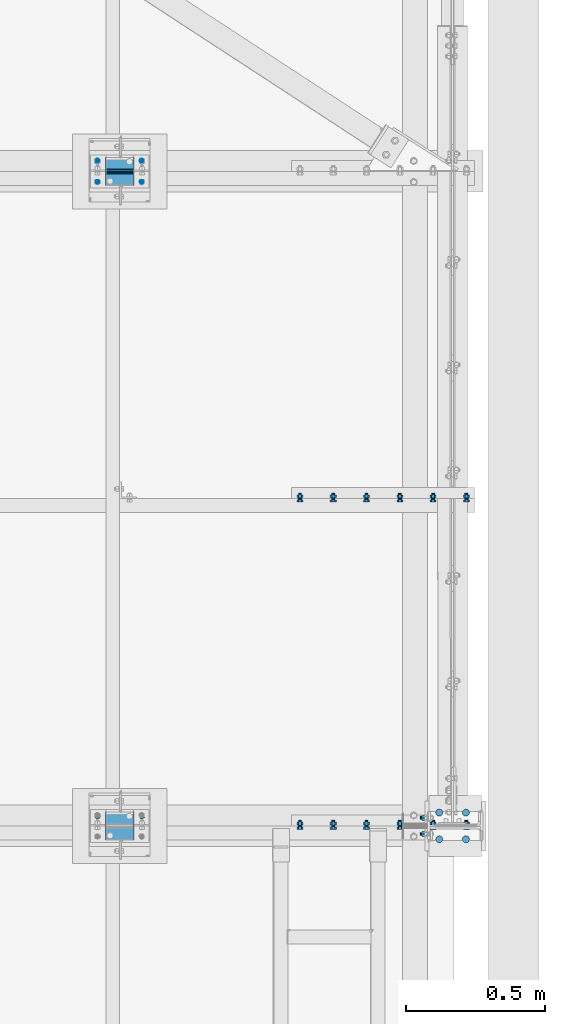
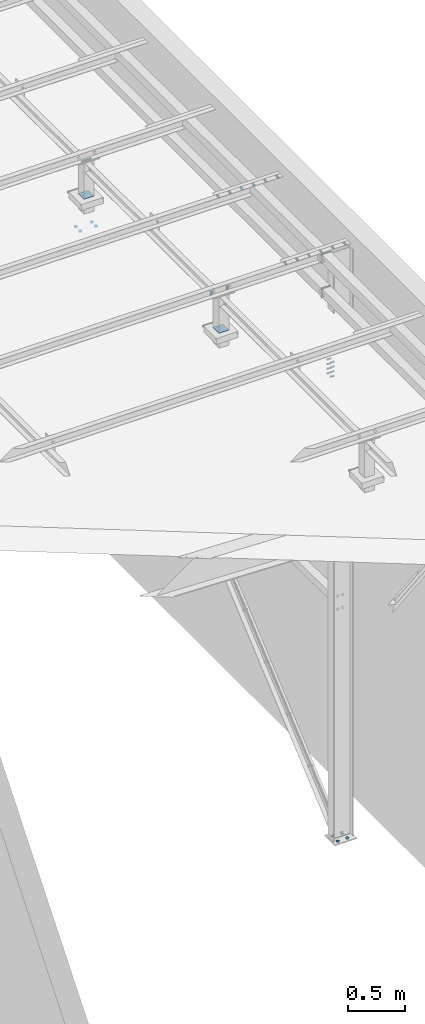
# One storey, part 345 of 3134: 10 mechanical fasteners, 7 elements without a shape of their own.
"""IFC2X3 building model written with IfcOpenShell, lengths in millimetres."""

from ifc_helpers import new_model, si_unit, frame, origin_with_axes, place, context, subcontext, project, spatial, faceted_brep, source, transform, mapped, material, type_object, element, aggregate, save


model = new_model("IFC2X3")

# Units and contexts
model_context = context("Model", 3, precision=1e-05, world=origin_with_axes())
body_context = subcontext(model_context, "Body", "Model", "MODEL_VIEW")
ifc_project = project(units=[si_unit("LENGTHUNIT", "METRE", prefix="MILLI"), si_unit("AREAUNIT", "SQUARE_METRE"), si_unit("VOLUMEUNIT", "CUBIC_METRE"), si_unit("MASSUNIT", "GRAM", prefix="KILO"), si_unit("TIMEUNIT", "SECOND"), si_unit("PLANEANGLEUNIT", "RADIAN"), si_unit("SOLIDANGLEUNIT", "STERADIAN"), si_unit("THERMODYNAMICTEMPERATUREUNIT", "DEGREE_CELSIUS"), si_unit("LUMINOUSINTENSITYUNIT", "LUMEN")], contexts=[model_context])

# Site, building, storey
site_placement = place(None, origin_with_axes())
site = spatial("IfcSite", under=ifc_project, at=site_placement, CompositionType="ELEMENT")
building_placement = place(site_placement, origin_with_axes())
building = spatial("IfcBuilding", under=site, at=building_placement, Name="Undefined", CompositionType="ELEMENT")
storey_placement = place(building_placement, origin_with_axes())
storey = spatial("IfcBuildingStorey", under=building, at=storey_placement, Name="Undefined", CompositionType="ELEMENT", Elevation=0.0)

# Assembly, mechanical fastener
assembly_1_placement = place(storey_placement, origin_with_axes())
assembly_1 = element("IfcElementAssembly", 1, at=assembly_1_placement, inside=storey, Name="IPE200", AssemblyPlace="NOTDEFINED", PredefinedType="RIGID_FRAME")
ifc_material_1 = material(Name="8.8")
mechanical_fastener_type = type_object("IfcMechanicalFastenerType", Name="Bolt assembly")
shared_shape_1 = source(origin_with_axes(), body_context, "Body", "Brep", [
    faceted_brep([(13.0, 0.0, 0.0), (11.2583302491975, 0.0, 6.50000000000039), (6.49999999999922, 0.0, 11.2583302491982), (-1.34723677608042e-12, 0.0, 13.0), (-6.50000000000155, 0.0, 11.2583302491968), (-11.2583302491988, 0.0, 6.49999999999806), (-13.0, 0.0, -2.69447355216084e-12), (-11.2583302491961, 0.0, -6.50000000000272), (-6.4999999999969, 0.0, -11.2583302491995), (4.02727742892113e-12, 0.0, -13.0), (6.50000000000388, 0.0, -11.2583302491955), (11.2583302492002, 0.0, -6.49999999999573), (11.2583302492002, 12.1, -6.49999999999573), (6.50000000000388, 12.1, -11.2583302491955), (4.02727742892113e-12, 12.1, -13.0), (-6.4999999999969, 12.1, -11.2583302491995), (-11.2583302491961, 12.1, -6.50000000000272), (-13.0, 12.1, -2.69447355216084e-12), (-11.2583302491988, 12.1, 6.49999999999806), (-6.50000000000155, 12.1, 11.2583302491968), (-1.34723677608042e-12, 12.1, 13.0), (6.49999999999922, 12.1, 11.2583302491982), (11.2583302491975, 12.1, 6.50000000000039), (13.0, 12.1, 0.0)], [[[0, 1, 2, 3, 4, 5, 6, 7, 8, 9, 10, 11]], [[12, 13, 14, 15, 16, 17, 18, 19, 20, 21, 22, 23]], [[0, 23, 22, 1]], [[1, 22, 21, 2]], [[2, 21, 20, 3]], [[3, 20, 19, 4]], [[4, 19, 18, 5]], [[5, 18, 17, 6]], [[6, 17, 16, 7]], [[7, 16, 15, 8]], [[8, 15, 14, 9]], [[9, 14, 13, 10]], [[10, 13, 12, 11]], [[11, 12, 23, 0]]]),
])
mechanical_fastener_1_placement = place(assembly_1_placement, frame((79177.0, 7650.0, -400.0), z_axis=(0.0, -1.0, 0.0), x_axis=(1.0, 0.0, 0.0)))
mechanical_fastener_1 = element("IfcMechanicalFastener", 2, at=mechanical_fastener_1_placement, type_object=mechanical_fastener_type, material=ifc_material_1, Name="Bolt assembly", NominalDiameter=24.0, NominalLength=12.0, context=body_context, shape_type="MappedRepresentation", body=[
    mapped(shared_shape_1, transform((0.0, 0.0, -48.0))),
    mapped(shared_shape_1, transform((96.0, 0.0, -48.0))),
    mapped(shared_shape_1, transform((0.0, 0.0, 48.0))),
    mapped(shared_shape_1, transform((96.0, 0.0, 48.0))),
])

assembly_2_placement = place(storey_placement, origin_with_axes())
assembly_2 = element("IfcElementAssembly", 3, at=assembly_2_placement, inside=storey, AssemblyPlace="NOTDEFINED", PredefinedType="RIGID_FRAME")
shared_shape_2 = source(origin_with_axes(), body_context, "Body", "Brep", [
    faceted_brep([(10.9696551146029, -14.0, 0.0), (5.48482755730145, -14.0, 9.5), (-5.48482755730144, -14.0, 9.5), (-10.9696551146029, -14.0, 1.34339530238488e-15), (-5.48482755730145, -14.0, -9.5), (5.48482755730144, -14.0, -9.50000000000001), (5.48482755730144, -6.0, -9.50000000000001), (-5.48482755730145, -6.0, -9.5), (-10.9696551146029, -6.0, 1.34339530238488e-15), (-5.48482755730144, -6.0, 9.5), (5.48482755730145, -6.0, 9.5), (10.9696551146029, -6.0, 0.0), (6.0, -6.0, 0.0), (5.19615242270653, -6.0, 3.00000000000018), (2.99999999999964, -6.0, 5.19615242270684), (-6.21801588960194e-13, -6.0, 6.0), (-3.00000000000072, -6.0, 5.19615242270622), (-5.19615242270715, -6.0, 2.9999999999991), (-6.0, -6.0, -1.24360317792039e-12), (-5.19615242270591, -6.0, -3.00000000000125), (-2.99999999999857, -6.0, -5.19615242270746), (1.85874342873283e-12, -6.0, -6.0), (3.00000000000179, -6.0, -5.1961524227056), (5.19615242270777, -6.0, -2.99999999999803), (5.19615242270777, 24.0, -2.99999999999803), (3.00000000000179, 24.0, -5.1961524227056), (1.85874342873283e-12, 24.0, -6.0), (-2.99999999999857, 24.0, -5.19615242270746), (-5.19615242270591, 24.0, -3.00000000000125), (-6.0, 24.0, -1.24360317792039e-12), (-5.19615242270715, 24.0, 2.9999999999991), (-3.00000000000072, 24.0, 5.19615242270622), (-6.21801588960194e-13, 24.0, 6.0), (2.99999999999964, 24.0, 5.19615242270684), (5.19615242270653, 24.0, 3.00000000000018), (6.0, 24.0, 0.0), (10.9696551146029, 6.00000000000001, 0.0), (5.48482755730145, 6.00000000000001, 9.5), (-5.48482755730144, 6.00000000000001, 9.5), (-10.9696551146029, 6.00000000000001, 1.34339530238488e-15), (-5.48482755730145, 6.00000000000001, -9.5), (5.48482755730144, 6.00000000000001, -9.50000000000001), (5.48482755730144, 16.0, -9.50000000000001), (-5.48482755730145, 16.0, -9.5), (-10.9696551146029, 16.0, 1.34339530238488e-15), (-5.48482755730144, 16.0, 9.5), (5.48482755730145, 16.0, 9.5), (10.9696551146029, 16.0, 0.0)], [[[0, 1, 2, 3, 4, 5]], [[6, 7, 8, 9, 10, 11]], [[0, 11, 10, 1]], [[1, 10, 9, 2]], [[2, 9, 8, 3]], [[3, 8, 7, 4]], [[4, 7, 6, 5]], [[5, 6, 11, 0]], [[12, 13, 14, 15, 16, 17, 18, 19, 20, 21, 22, 23]], [[24, 25, 26, 27, 28, 29, 30, 31, 32, 33, 34, 35]], [[12, 35, 34, 13]], [[13, 34, 33, 14]], [[14, 33, 32, 15]], [[15, 32, 31, 16]], [[16, 31, 30, 17]], [[17, 30, 29, 18]], [[18, 29, 28, 19]], [[19, 28, 27, 20]], [[20, 27, 26, 21]], [[21, 26, 25, 22]], [[22, 25, 24, 23]], [[23, 24, 35, 12]], [[36, 37, 38, 39, 40, 41]], [[42, 43, 44, 45, 46, 47]], [[36, 47, 46, 37]], [[37, 46, 45, 38]], [[38, 45, 44, 39]], [[39, 44, 43, 40]], [[40, 43, 42, 41]], [[41, 42, 47, 36]]]),
    faceted_brep([(7.0, -0.1, 0.0), (6.06217782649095, -0.1, 3.50000000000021), (3.49999999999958, -0.1, 6.06217782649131), (-7.25435187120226e-13, -0.1, 7.0), (-3.50000000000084, -0.1, 6.06217782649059), (-6.06217782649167, -0.1, 3.49999999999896), (-7.0, -0.1, -1.45087037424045e-12), (-6.06217782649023, -0.1, -3.50000000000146), (-3.49999999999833, -0.1, -6.06217782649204), (2.1685340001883e-12, -0.1, -7.0), (3.50000000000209, -0.1, -6.06217782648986), (6.0621778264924, -0.1, -3.4999999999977), (6.0621778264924, 6.00000000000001, -3.4999999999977), (3.50000000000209, 6.00000000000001, -6.06217782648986), (2.1685340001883e-12, 6.00000000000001, -7.0), (-3.49999999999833, 6.00000000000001, -6.06217782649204), (-6.06217782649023, 6.00000000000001, -3.50000000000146), (-7.0, 6.00000000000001, -1.45087037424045e-12), (-6.06217782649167, 6.00000000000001, 3.49999999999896), (-3.50000000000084, 6.00000000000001, 6.06217782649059), (-7.25435187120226e-13, 6.00000000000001, 7.0), (3.49999999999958, 6.00000000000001, 6.06217782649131), (6.06217782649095, 6.00000000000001, 3.50000000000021), (7.0, 6.00000000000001, 0.0), (7.0, -5.9, 0.0), (6.06217782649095, -5.9, 3.50000000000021), (3.49999999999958, -5.9, 6.06217782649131), (-7.25435187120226e-13, -5.9, 7.0), (-3.50000000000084, -5.9, 6.06217782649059), (-6.06217782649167, -5.9, 3.49999999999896), (-7.0, -5.9, -1.45087037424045e-12), (-6.06217782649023, -5.9, -3.50000000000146), (-3.49999999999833, -5.9, -6.06217782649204), (2.1685340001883e-12, -5.9, -7.0), (3.50000000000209, -5.9, -6.06217782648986), (6.0621778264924, -5.9, -3.4999999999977), (6.0621778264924, 0.0999999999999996, -3.4999999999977), (3.50000000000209, 0.0999999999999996, -6.06217782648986), (2.1685340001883e-12, 0.0999999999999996, -7.0), (-3.49999999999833, 0.0999999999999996, -6.06217782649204), (-6.06217782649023, 0.0999999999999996, -3.50000000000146), (-7.0, 0.0999999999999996, -1.45087037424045e-12), (-6.06217782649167, 0.0999999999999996, 3.49999999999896), (-3.50000000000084, 0.0999999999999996, 6.06217782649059), (-7.25435187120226e-13, 0.0999999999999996, 7.0), (3.49999999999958, 0.0999999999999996, 6.06217782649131), (6.06217782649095, 0.0999999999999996, 3.50000000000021), (7.0, 0.0999999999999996, 0.0)], [[[0, 1, 2, 3, 4, 5, 6, 7, 8, 9, 10, 11]], [[12, 13, 14, 15, 16, 17, 18, 19, 20, 21, 22, 23]], [[0, 23, 22, 1]], [[1, 22, 21, 2]], [[2, 21, 20, 3]], [[3, 20, 19, 4]], [[4, 19, 18, 5]], [[5, 18, 17, 6]], [[6, 17, 16, 7]], [[7, 16, 15, 8]], [[8, 15, 14, 9]], [[9, 14, 13, 10]], [[10, 13, 12, 11]], [[11, 12, 23, 0]], [[24, 25, 26, 27, 28, 29, 30, 31, 32, 33, 34, 35]], [[36, 37, 38, 39, 40, 41, 42, 43, 44, 45, 46, 47]], [[24, 47, 46, 25]], [[25, 46, 45, 26]], [[26, 45, 44, 27]], [[27, 44, 43, 28]], [[28, 43, 42, 29]], [[29, 42, 41, 30]], [[30, 41, 40, 31]], [[31, 40, 39, 32]], [[32, 39, 38, 33]], [[33, 38, 37, 34]], [[34, 37, 36, 35]], [[35, 36, 47, 24]]]),
])
mechanical_fastener_2_placement = place(assembly_2_placement, frame((78025.0, 7685.0, 5850.0), z_axis=(1.0, 0.0, 0.0), x_axis=(0.0, -1.0, 0.0)))
mechanical_fastener_2 = element("IfcMechanicalFastener", 4, at=mechanical_fastener_2_placement, type_object=mechanical_fastener_type, material=ifc_material_1, Name="Bolt assembly", NominalDiameter=12.0, NominalLength=30.0, context=body_context, shape_type="MappedRepresentation", body=[
    mapped(shared_shape_2, transform((0.0, -5.32963895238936e-10, -79.9999999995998))),
    mapped(shared_shape_2, transform((0.0, 5.3114490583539e-10, 79.9999999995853))),
])
aggregate(assembly_2, [mechanical_fastener_2])

assembly_3_placement = place(storey_placement, origin_with_axes())
assembly_3 = element("IfcElementAssembly", 5, at=assembly_3_placement, inside=storey, AssemblyPlace="NOTDEFINED", PredefinedType="RIGID_FRAME")
shared_shape_3 = source(origin_with_axes(), body_context, "Body", "Brep", [
    faceted_brep([(7.0, 13.0000253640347, 0.0), (6.06217782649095, 13.0000253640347, 3.50000000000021), (3.49999999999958, 13.0000253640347, 6.06217782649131), (-7.25435187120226e-13, 13.0000253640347, 7.0), (-3.50000000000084, 13.0000253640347, 6.06217782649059), (-6.06217782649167, 13.0000253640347, 3.49999999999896), (-7.0, 13.0000253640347, -1.45087037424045e-12), (-6.06217782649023, 13.0000253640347, -3.50000000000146), (-3.49999999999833, 13.0000253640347, -6.06217782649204), (2.1685340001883e-12, 13.0000253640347, -7.0), (3.50000000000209, 13.0000253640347, -6.06217782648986), (6.0621778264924, 13.0000253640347, -3.4999999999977), (6.0621778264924, 15.0999999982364, -3.4999999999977), (3.50000000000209, 15.0999999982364, -6.06217782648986), (2.1685340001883e-12, 15.0999999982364, -7.0), (-3.49999999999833, 15.0999999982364, -6.06217782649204), (-6.06217782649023, 15.0999999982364, -3.50000000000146), (-7.0, 15.0999999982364, -1.45087037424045e-12), (-6.06217782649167, 15.0999999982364, 3.49999999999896), (-3.50000000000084, 15.0999999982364, 6.06217782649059), (-7.25435187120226e-13, 15.0999999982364, 7.0), (3.49999999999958, 15.0999999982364, 6.06217782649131), (6.06217782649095, 15.0999999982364, 3.50000000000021), (7.0, 15.0999999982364, 0.0)], [[[0, 1, 2, 3, 4, 5, 6, 7, 8, 9, 10, 11]], [[12, 13, 14, 15, 16, 17, 18, 19, 20, 21, 22, 23]], [[0, 23, 22, 1]], [[1, 22, 21, 2]], [[2, 21, 20, 3]], [[3, 20, 19, 4]], [[4, 19, 18, 5]], [[5, 18, 17, 6]], [[6, 17, 16, 7]], [[7, 16, 15, 8]], [[8, 15, 14, 9]], [[9, 14, 13, 10]], [[10, 13, 12, 11]], [[11, 12, 23, 0]]]),
])
mechanical_fastener_3_placement = place(assembly_3_placement, frame((78024.3451187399, 10048.0, 5102.2772055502), z_axis=(-0.99951962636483, 0.0, 0.0309922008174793), x_axis=(0.0, -1.0, 0.0)))
mechanical_fastener_3 = element("IfcMechanicalFastener", 6, at=mechanical_fastener_3_placement, type_object=mechanical_fastener_type, material=ifc_material_1, Name="Bolt assembly", NominalDiameter=12.0, NominalLength=2.0, context=body_context, shape_type="MappedRepresentation", body=[
    mapped(shared_shape_3, transform((0.0, -5.32963895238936e-10, -79.9999999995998))),
    mapped(shared_shape_3, transform((76.0, -5.32963895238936e-10, -79.9999999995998))),
    mapped(shared_shape_3, transform((0.0, 5.3114490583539e-10, 79.9999999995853))),
    mapped(shared_shape_3, transform((76.0, 5.3114490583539e-10, 79.9999999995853))),
])
aggregate(assembly_3, [mechanical_fastener_3])

# Assembly, mechanical fasteners
assembly_4_placement = place(storey_placement, origin_with_axes())
assembly_4 = element("IfcElementAssembly", 7, at=assembly_4_placement, inside=storey, AssemblyPlace="NOTDEFINED", PredefinedType="RIGID_FRAME")
shared_shape_4 = source(origin_with_axes(), body_context, "Body", "Brep", [
    faceted_brep([(9.0, -50.0, 0.0), (7.79422863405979, -50.0, 4.50000000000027), (4.49999999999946, -50.0, 7.79422863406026), (-9.3270238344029e-13, -50.0, 9.0), (-4.50000000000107, -50.0, 7.79422863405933), (-7.79422863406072, -50.0, 4.49999999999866), (-9.0, -50.0, -1.86540476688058e-12), (-7.79422863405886, -50.0, -4.50000000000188), (-4.49999999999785, -50.0, -7.79422863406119), (2.78811514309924e-12, -50.0, -9.0), (4.50000000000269, -50.0, -7.7942286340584), (7.79422863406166, -50.0, -4.49999999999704), (7.79422863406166, 50.1, -4.49999999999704), (4.50000000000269, 50.1, -7.7942286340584), (2.78811514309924e-12, 50.1, -9.0), (-4.49999999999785, 50.1, -7.79422863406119), (-7.79422863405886, 50.1, -4.50000000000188), (-9.0, 50.1, -1.86540476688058e-12), (-7.79422863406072, 50.1, 4.49999999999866), (-4.50000000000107, 50.1, 7.79422863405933), (-9.3270238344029e-13, 50.1, 9.0), (4.49999999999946, 50.1, 7.79422863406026), (7.79422863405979, 50.1, 4.50000000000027), (9.0, 50.1, 0.0)], [[[0, 1, 2, 3, 4, 5, 6, 7, 8, 9, 10, 11]], [[12, 13, 14, 15, 16, 17, 18, 19, 20, 21, 22, 23]], [[0, 23, 22, 1]], [[1, 22, 21, 2]], [[2, 21, 20, 3]], [[3, 20, 19, 4]], [[4, 19, 18, 5]], [[5, 18, 17, 6]], [[6, 17, 16, 7]], [[7, 16, 15, 8]], [[8, 15, 14, 9]], [[9, 14, 13, 10]], [[10, 13, 12, 11]], [[11, 12, 23, 0]]]),
])
mechanical_fastener_4_placement = place(assembly_4_placement, frame((78025.0, 10010.0, 5830.0), z_axis=(0.0, 1.0, 0.0), x_axis=(0.0, 0.0, 1.0)))
mechanical_fastener_4 = element("IfcMechanicalFastener", 8, at=mechanical_fastener_4_placement, type_object=mechanical_fastener_type, material=ifc_material_1, Name="Bolt assembly", NominalDiameter=16.0, NominalLength=100.0, context=body_context, shape_type="MappedRepresentation", body=[
    mapped(shared_shape_4, transform((0.0, 0.0, 0.0))),
])
ifc_material_2 = material(Name="6.8")
shared_shape_5 = source(origin_with_axes(), body_context, "Body", "Brep", [
    faceted_brep([(51.5, 1.36424205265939e-12, 50.0), (51.3858192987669, 1.36424205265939e-12, 50.5740251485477), (51.0606601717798, 1.36424205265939e-12, 51.0606601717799), (50.5740251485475, 1.36424205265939e-12, 51.385819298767), (-50.0000000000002, 1.36424205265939e-12, 51.5), (-50.7500000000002, 1.36424205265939e-12, 51.2990381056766), (-51.2990381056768, 1.36424205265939e-12, 50.7499999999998), (-51.5, 1.36424205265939e-12, 49.9999999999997), (-51.5, 1.36424205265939e-12, -50.0000000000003), (-51.2990381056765, 1.36424205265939e-12, -50.7500000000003), (-50.7499999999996, 1.36424205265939e-12, -51.2990381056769), (-49.9999999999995, 1.36424205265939e-12, -51.5), (50.0000000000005, 1.36424205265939e-12, -51.5), (50.7500000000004, 1.36424205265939e-12, -51.2990381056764), (51.2990381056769, 1.36424205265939e-12, -50.7499999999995), (51.5, 1.36424205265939e-12, -49.9999999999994), (51.5, 5.10000000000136, -49.9999999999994), (51.2990381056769, 5.10000000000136, -50.7499999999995), (50.7500000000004, 5.10000000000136, -51.2990381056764), (50.0000000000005, 5.10000000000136, -51.5), (-49.9999999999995, 5.10000000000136, -51.5), (-50.7499999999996, 5.10000000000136, -51.2990381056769), (-51.2990381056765, 5.10000000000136, -50.7500000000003), (-51.5, 5.10000000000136, -50.0000000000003), (-51.5, 5.10000000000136, 49.9999999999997), (-51.2990381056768, 5.10000000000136, 50.7499999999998), (-50.7500000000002, 5.10000000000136, 51.2990381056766), (-50.0000000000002, 5.10000000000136, 51.5), (50.5740251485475, 5.10000000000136, 51.385819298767), (51.0606601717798, 5.10000000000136, 51.0606601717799), (51.3858192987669, 5.10000000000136, 50.5740251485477), (51.5, 5.10000000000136, 50.0)], [[[0, 1, 2, 3, 4, 5, 6, 7, 8, 9, 10, 11, 12, 13, 14, 15]], [[16, 17, 18, 19, 20, 21, 22, 23, 24, 25, 26, 27, 28, 29, 30, 31]], [[0, 31, 30, 1]], [[1, 30, 29, 2]], [[2, 29, 28, 3]], [[3, 28, 27, 4]], [[4, 27, 26, 5]], [[5, 26, 25, 6]], [[6, 25, 24, 7]], [[7, 24, 23, 8]], [[8, 23, 22, 9]], [[9, 22, 21, 10]], [[10, 21, 20, 11]], [[11, 20, 19, 12]], [[12, 19, 18, 13]], [[13, 18, 17, 14]], [[14, 17, 16, 15]], [[15, 16, 31, 0]]]),
])
mechanical_fastener_5_placement = place(assembly_4_placement, frame((78025.0, 10010.0, 5456.99), z_axis=(0.0, -1.0, 0.0), x_axis=(-1.0, 0.0, 0.0)))
mechanical_fastener_5 = element("IfcMechanicalFastener", 9, at=mechanical_fastener_5_placement, type_object=mechanical_fastener_type, material=ifc_material_2, Name="Bolt assembly", NominalDiameter=10.0, NominalLength=5.0, context=body_context, shape_type="MappedRepresentation", body=[
    mapped(shared_shape_5, transform((0.0, 0.0, 0.0))),
])
aggregate(assembly_4, [mechanical_fastener_4, mechanical_fastener_5])

# Assembly, mechanical fastener
assembly_5_placement = place(storey_placement, origin_with_axes())
assembly_5 = element("IfcElementAssembly", 10, at=assembly_5_placement, inside=storey, AssemblyPlace="NOTDEFINED", PredefinedType="RIGID_FRAME")
mechanical_fastener_6_placement = place(assembly_5_placement, frame((78025.0, 7650.0, 5456.99), z_axis=(0.0, -1.0, 0.0), x_axis=(-1.0, 0.0, 0.0)))
mechanical_fastener_6 = element("IfcMechanicalFastener", 11, at=mechanical_fastener_6_placement, type_object=mechanical_fastener_type, material=ifc_material_2, Name="Bolt assembly", NominalDiameter=10.0, NominalLength=5.0, context=body_context, shape_type="MappedRepresentation", body=[
    mapped(shared_shape_5, transform((0.0, 0.0, 0.0))),
])
aggregate(assembly_5, [mechanical_fastener_6])

# Mechanical fastener
shared_shape_6 = source(origin_with_axes(), body_context, "Body", "Brep", [
    faceted_brep([(10.9696551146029, -16.5, 0.0), (5.48482755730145, -16.5, 9.5), (-5.48482755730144, -16.5, 9.5), (-10.9696551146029, -16.5, 1.34339530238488e-15), (-5.48482755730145, -16.5, -9.5), (5.48482755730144, -16.5, -9.50000000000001), (5.48482755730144, -8.5, -9.50000000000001), (-5.48482755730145, -8.5, -9.5), (-10.9696551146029, -8.5, 1.34339530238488e-15), (-5.48482755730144, -8.5, 9.5), (5.48482755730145, -8.5, 9.5), (10.9696551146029, -8.5, 0.0), (6.0, -8.5, 0.0), (5.19615242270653, -8.5, 3.00000000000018), (2.99999999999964, -8.5, 5.19615242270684), (-6.21801588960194e-13, -8.5, 6.0), (-3.00000000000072, -8.5, 5.19615242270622), (-5.19615242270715, -8.5, 2.9999999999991), (-6.0, -8.5, -1.24360317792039e-12), (-5.19615242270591, -8.5, -3.00000000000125), (-2.99999999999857, -8.5, -5.19615242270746), (1.85874342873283e-12, -8.5, -6.0), (3.00000000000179, -8.5, -5.1961524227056), (5.19615242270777, -8.5, -2.99999999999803), (5.19615242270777, 26.5, -2.99999999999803), (3.00000000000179, 26.5, -5.1961524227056), (1.85874342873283e-12, 26.5, -6.0), (-2.99999999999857, 26.5, -5.19615242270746), (-5.19615242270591, 26.5, -3.00000000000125), (-6.0, 26.5, -1.24360317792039e-12), (-5.19615242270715, 26.5, 2.9999999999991), (-3.00000000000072, 26.5, 5.19615242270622), (-6.21801588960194e-13, 26.5, 6.0), (2.99999999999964, 26.5, 5.19615242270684), (5.19615242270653, 26.5, 3.00000000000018), (6.0, 26.5, 0.0), (10.9696551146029, 10.0, 0.0), (5.48482755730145, 10.0, 9.5), (-5.48482755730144, 10.0, 9.5), (-10.9696551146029, 10.0, 1.34339530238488e-15), (-5.48482755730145, 10.0, -9.5), (5.48482755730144, 10.0, -9.50000000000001), (5.48482755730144, 20.0, -9.50000000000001), (-5.48482755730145, 20.0, -9.5), (-10.9696551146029, 20.0, 1.34339530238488e-15), (-5.48482755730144, 20.0, 9.5), (5.48482755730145, 20.0, 9.5), (10.9696551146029, 20.0, 0.0)], [[[0, 1, 2, 3, 4, 5]], [[6, 7, 8, 9, 10, 11]], [[0, 11, 10, 1]], [[1, 10, 9, 2]], [[2, 9, 8, 3]], [[3, 8, 7, 4]], [[4, 7, 6, 5]], [[5, 6, 11, 0]], [[12, 13, 14, 15, 16, 17, 18, 19, 20, 21, 22, 23]], [[24, 25, 26, 27, 28, 29, 30, 31, 32, 33, 34, 35]], [[12, 35, 34, 13]], [[13, 34, 33, 14]], [[14, 33, 32, 15]], [[15, 32, 31, 16]], [[16, 31, 30, 17]], [[17, 30, 29, 18]], [[18, 29, 28, 19]], [[19, 28, 27, 20]], [[20, 27, 26, 21]], [[21, 26, 25, 22]], [[22, 25, 24, 23]], [[23, 24, 35, 12]], [[36, 37, 38, 39, 40, 41]], [[42, 43, 44, 45, 46, 47]], [[36, 47, 46, 37]], [[37, 46, 45, 38]], [[38, 45, 44, 39]], [[39, 44, 43, 40]], [[40, 43, 42, 41]], [[41, 42, 47, 36]]]),
    faceted_brep([(7.0, -0.1, 0.0), (6.06217782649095, -0.1, 3.50000000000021), (3.49999999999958, -0.1, 6.06217782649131), (-7.25435187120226e-13, -0.1, 7.0), (-3.50000000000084, -0.1, 6.06217782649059), (-6.06217782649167, -0.1, 3.49999999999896), (-7.0, -0.1, -1.45087037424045e-12), (-6.06217782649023, -0.1, -3.50000000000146), (-3.49999999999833, -0.1, -6.06217782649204), (2.1685340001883e-12, -0.1, -7.0), (3.50000000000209, -0.1, -6.06217782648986), (6.0621778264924, -0.1, -3.4999999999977), (6.0621778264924, 10.0, -3.4999999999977), (3.50000000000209, 10.0, -6.06217782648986), (2.1685340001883e-12, 10.0, -7.0), (-3.49999999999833, 10.0, -6.06217782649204), (-6.06217782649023, 10.0, -3.50000000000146), (-7.0, 10.0, -1.45087037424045e-12), (-6.06217782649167, 10.0, 3.49999999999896), (-3.50000000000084, 10.0, 6.06217782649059), (-7.25435187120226e-13, 10.0, 7.0), (3.49999999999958, 10.0, 6.06217782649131), (6.06217782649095, 10.0, 3.50000000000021), (7.0, 10.0, 0.0), (7.0, -8.4, 0.0), (6.06217782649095, -8.4, 3.50000000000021), (3.49999999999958, -8.4, 6.06217782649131), (-7.25435187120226e-13, -8.4, 7.0), (-3.50000000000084, -8.4, 6.06217782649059), (-6.06217782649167, -8.4, 3.49999999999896), (-7.0, -8.4, -1.45087037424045e-12), (-6.06217782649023, -8.4, -3.50000000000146), (-3.49999999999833, -8.4, -6.06217782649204), (2.1685340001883e-12, -8.4, -7.0), (3.50000000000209, -8.4, -6.06217782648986), (6.0621778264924, -8.4, -3.4999999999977), (6.0621778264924, 0.0999999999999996, -3.4999999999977), (3.50000000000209, 0.0999999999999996, -6.06217782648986), (2.1685340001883e-12, 0.0999999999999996, -7.0), (-3.49999999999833, 0.0999999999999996, -6.06217782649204), (-6.06217782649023, 0.0999999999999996, -3.50000000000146), (-7.0, 0.0999999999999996, -1.45087037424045e-12), (-6.06217782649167, 0.0999999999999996, 3.49999999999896), (-3.50000000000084, 0.0999999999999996, 6.06217782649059), (-7.25435187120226e-13, 0.0999999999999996, 7.0), (3.49999999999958, 0.0999999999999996, 6.06217782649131), (6.06217782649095, 0.0999999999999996, 3.50000000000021), (7.0, 0.0999999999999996, 0.0)], [[[0, 1, 2, 3, 4, 5, 6, 7, 8, 9, 10, 11]], [[12, 13, 14, 15, 16, 17, 18, 19, 20, 21, 22, 23]], [[0, 23, 22, 1]], [[1, 22, 21, 2]], [[2, 21, 20, 3]], [[3, 20, 19, 4]], [[4, 19, 18, 5]], [[5, 18, 17, 6]], [[6, 17, 16, 7]], [[7, 16, 15, 8]], [[8, 15, 14, 9]], [[9, 14, 13, 10]], [[10, 13, 12, 11]], [[11, 12, 23, 0]], [[24, 25, 26, 27, 28, 29, 30, 31, 32, 33, 34, 35]], [[36, 37, 38, 39, 40, 41, 42, 43, 44, 45, 46, 47]], [[24, 47, 46, 25]], [[25, 46, 45, 26]], [[26, 45, 44, 27]], [[27, 44, 43, 28]], [[28, 43, 42, 29]], [[29, 42, 41, 30]], [[30, 41, 40, 31]], [[31, 40, 39, 32]], [[32, 39, 38, 33]], [[33, 38, 37, 34]], [[34, 37, 36, 35]], [[35, 36, 47, 24]]]),
])
mechanical_fastener_7_placement = place(assembly_1_placement, frame((79135.0, 7679.0, 4728.722486), z_axis=(0.0, 1.0, 0.0), x_axis=(0.0, 0.0, -1.0)))
mechanical_fastener_7 = element("IfcMechanicalFastener", 12, at=mechanical_fastener_7_placement, type_object=mechanical_fastener_type, material=ifc_material_1, Name="Bolt assembly", NominalDiameter=12.0, NominalLength=35.0, context=body_context, shape_type="MappedRepresentation", body=[
    mapped(shared_shape_6, transform((0.0, 0.0, 0.0))),
    mapped(shared_shape_6, transform((50.000000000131, -1.38243194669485e-10, 0.0))),
    mapped(shared_shape_6, transform((100.0, 0.0, 0.0))),
    mapped(shared_shape_6, transform((150.0, 0.0, 0.0))),
])

mechanical_fastener_8_placement = place(assembly_1_placement, frame((79135.0, 7621.0, 4728.722486), z_axis=(0.0, 1.0, 0.0), x_axis=(0.0, 0.0, -1.0)))
mechanical_fastener_8 = element("IfcMechanicalFastener", 13, at=mechanical_fastener_8_placement, type_object=mechanical_fastener_type, material=ifc_material_1, Name="Bolt assembly", NominalDiameter=12.0, NominalLength=35.0, context=body_context, shape_type="MappedRepresentation", body=[
    mapped(shared_shape_6, transform((0.0, 0.0, 0.0))),
    mapped(shared_shape_6, transform((50.000000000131, -1.38243194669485e-10, 0.0))),
    mapped(shared_shape_6, transform((100.0, 0.0, 0.0))),
    mapped(shared_shape_6, transform((150.0, 0.0, 0.0))),
])

aggregate(assembly_1, [mechanical_fastener_7, mechanical_fastener_8, mechanical_fastener_1])

# Assembly, mechanical fastener
assembly_6_placement = place(storey_placement, origin_with_axes())
assembly_6 = element("IfcElementAssembly", 14, at=assembly_6_placement, inside=storey, AssemblyPlace="NOTDEFINED", PredefinedType="RIGID_FRAME")
shared_shape_7 = source(origin_with_axes(), body_context, "Body", "Brep", [
    faceted_brep([(10.9696551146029, -12.0, 0.0), (5.48482755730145, -12.0, 9.5), (-5.48482755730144, -12.0, 9.5), (-10.9696551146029, -12.0, 1.34339530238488e-15), (-5.48482755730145, -12.0, -9.5), (5.48482755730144, -12.0, -9.50000000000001), (5.48482755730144, -4.0, -9.50000000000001), (-5.48482755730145, -4.0, -9.5), (-10.9696551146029, -4.0, 1.34339530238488e-15), (-5.48482755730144, -4.0, 9.5), (5.48482755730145, -4.0, 9.5), (10.9696551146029, -4.0, 0.0), (6.0, -4.0, 0.0), (5.19615242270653, -4.0, 3.00000000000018), (2.99999999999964, -4.0, 5.19615242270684), (-6.21801588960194e-13, -4.0, 6.0), (-3.00000000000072, -4.0, 5.19615242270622), (-5.19615242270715, -4.0, 2.9999999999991), (-6.0, -4.0, -1.24360317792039e-12), (-5.19615242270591, -4.0, -3.00000000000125), (-2.99999999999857, -4.0, -5.19615242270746), (1.85874342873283e-12, -4.0, -6.0), (3.00000000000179, -4.0, -5.1961524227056), (5.19615242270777, -4.0, -2.99999999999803), (5.19615242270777, 21.0, -2.99999999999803), (3.00000000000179, 21.0, -5.1961524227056), (1.85874342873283e-12, 21.0, -6.0), (-2.99999999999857, 21.0, -5.19615242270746), (-5.19615242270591, 21.0, -3.00000000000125), (-6.0, 21.0, -1.24360317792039e-12), (-5.19615242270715, 21.0, 2.9999999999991), (-3.00000000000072, 21.0, 5.19615242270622), (-6.21801588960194e-13, 21.0, 6.0), (2.99999999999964, 21.0, 5.19615242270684), (5.19615242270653, 21.0, 3.00000000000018), (6.0, 21.0, 0.0), (10.9696551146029, 4.00000000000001, 0.0), (5.48482755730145, 4.00000000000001, 9.5), (-5.48482755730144, 4.00000000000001, 9.5), (-10.9696551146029, 4.00000000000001, 1.34339530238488e-15), (-5.48482755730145, 4.00000000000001, -9.5), (5.48482755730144, 4.00000000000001, -9.50000000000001), (5.48482755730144, 14.0, -9.50000000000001), (-5.48482755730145, 14.0, -9.5), (-10.9696551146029, 14.0, 1.34339530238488e-15), (-5.48482755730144, 14.0, 9.5), (5.48482755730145, 14.0, 9.5), (10.9696551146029, 14.0, 0.0)], [[[0, 1, 2, 3, 4, 5]], [[6, 7, 8, 9, 10, 11]], [[0, 11, 10, 1]], [[1, 10, 9, 2]], [[2, 9, 8, 3]], [[3, 8, 7, 4]], [[4, 7, 6, 5]], [[5, 6, 11, 0]], [[12, 13, 14, 15, 16, 17, 18, 19, 20, 21, 22, 23]], [[24, 25, 26, 27, 28, 29, 30, 31, 32, 33, 34, 35]], [[12, 35, 34, 13]], [[13, 34, 33, 14]], [[14, 33, 32, 15]], [[15, 32, 31, 16]], [[16, 31, 30, 17]], [[17, 30, 29, 18]], [[18, 29, 28, 19]], [[19, 28, 27, 20]], [[20, 27, 26, 21]], [[21, 26, 25, 22]], [[22, 25, 24, 23]], [[23, 24, 35, 12]], [[36, 37, 38, 39, 40, 41]], [[42, 43, 44, 45, 46, 47]], [[36, 47, 46, 37]], [[37, 46, 45, 38]], [[38, 45, 44, 39]], [[39, 44, 43, 40]], [[40, 43, 42, 41]], [[41, 42, 47, 36]]]),
    faceted_brep([(7.0, -0.1, 0.0), (6.06217782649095, -0.1, 3.50000000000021), (3.49999999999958, -0.1, 6.06217782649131), (-7.25435187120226e-13, -0.1, 7.0), (-3.50000000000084, -0.1, 6.06217782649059), (-6.06217782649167, -0.1, 3.49999999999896), (-7.0, -0.1, -1.45087037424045e-12), (-6.06217782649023, -0.1, -3.50000000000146), (-3.49999999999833, -0.1, -6.06217782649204), (2.1685340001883e-12, -0.1, -7.0), (3.50000000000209, -0.1, -6.06217782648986), (6.0621778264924, -0.1, -3.4999999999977), (6.0621778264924, 4.00000000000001, -3.4999999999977), (3.50000000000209, 4.00000000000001, -6.06217782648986), (2.1685340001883e-12, 4.00000000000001, -7.0), (-3.49999999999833, 4.00000000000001, -6.06217782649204), (-6.06217782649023, 4.00000000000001, -3.50000000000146), (-7.0, 4.00000000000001, -1.45087037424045e-12), (-6.06217782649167, 4.00000000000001, 3.49999999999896), (-3.50000000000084, 4.00000000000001, 6.06217782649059), (-7.25435187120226e-13, 4.00000000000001, 7.0), (3.49999999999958, 4.00000000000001, 6.06217782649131), (6.06217782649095, 4.00000000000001, 3.50000000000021), (7.0, 4.00000000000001, 0.0), (7.0, -3.9, 0.0), (6.06217782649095, -3.9, 3.50000000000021), (3.49999999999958, -3.9, 6.06217782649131), (-7.25435187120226e-13, -3.9, 7.0), (-3.50000000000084, -3.9, 6.06217782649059), (-6.06217782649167, -3.9, 3.49999999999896), (-7.0, -3.9, -1.45087037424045e-12), (-6.06217782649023, -3.9, -3.50000000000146), (-3.49999999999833, -3.9, -6.06217782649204), (2.1685340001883e-12, -3.9, -7.0), (3.50000000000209, -3.9, -6.06217782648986), (6.0621778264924, -3.9, -3.4999999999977), (6.0621778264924, 0.0999999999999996, -3.4999999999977), (3.50000000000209, 0.0999999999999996, -6.06217782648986), (2.1685340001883e-12, 0.0999999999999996, -7.0), (-3.49999999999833, 0.0999999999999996, -6.06217782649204), (-6.06217782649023, 0.0999999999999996, -3.50000000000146), (-7.0, 0.0999999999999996, -1.45087037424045e-12), (-6.06217782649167, 0.0999999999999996, 3.49999999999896), (-3.50000000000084, 0.0999999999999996, 6.06217782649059), (-7.25435187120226e-13, 0.0999999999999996, 7.0), (3.49999999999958, 0.0999999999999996, 6.06217782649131), (6.06217782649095, 0.0999999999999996, 3.50000000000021), (7.0, 0.0999999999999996, 0.0)], [[[0, 1, 2, 3, 4, 5, 6, 7, 8, 9, 10, 11]], [[12, 13, 14, 15, 16, 17, 18, 19, 20, 21, 22, 23]], [[0, 23, 22, 1]], [[1, 22, 21, 2]], [[2, 21, 20, 3]], [[3, 20, 19, 4]], [[4, 19, 18, 5]], [[5, 18, 17, 6]], [[6, 17, 16, 7]], [[7, 16, 15, 8]], [[8, 15, 14, 9]], [[9, 14, 13, 10]], [[10, 13, 12, 11]], [[11, 12, 23, 0]], [[24, 25, 26, 27, 28, 29, 30, 31, 32, 33, 34, 35]], [[36, 37, 38, 39, 40, 41, 42, 43, 44, 45, 46, 47]], [[24, 47, 46, 25]], [[25, 46, 45, 26]], [[26, 45, 44, 27]], [[27, 44, 43, 28]], [[28, 43, 42, 29]], [[29, 42, 41, 30]], [[30, 41, 40, 31]], [[31, 40, 39, 32]], [[32, 39, 38, 33]], [[33, 38, 37, 34]], [[34, 37, 36, 35]], [[35, 36, 47, 24]]]),
])
mechanical_fastener_9_placement = place(assembly_6_placement, frame((78675.0, 8830.0, 5928.0), z_axis=(0.0, 0.0, 1.0), x_axis=(1.0, 0.0, 0.0)))
mechanical_fastener_9 = element("IfcMechanicalFastener", 15, at=mechanical_fastener_9_placement, type_object=mechanical_fastener_type, material=ifc_material_1, Name="Bolt assembly", NominalDiameter=12.0, NominalLength=25.0, context=body_context, shape_type="MappedRepresentation", body=[
    mapped(shared_shape_7, transform((0.0, 0.0, 0.0))),
    mapped(shared_shape_7, transform((120.0, 0.0, 0.0))),
    mapped(shared_shape_7, transform((240.0, 0.0, 0.0))),
    mapped(shared_shape_7, transform((360.0, 0.0, 0.0))),
    mapped(shared_shape_7, transform((480.0, 0.0, 0.0))),
    mapped(shared_shape_7, transform((600.0, 0.0, 0.0))),
])
aggregate(assembly_6, [mechanical_fastener_9])

assembly_7_placement = place(storey_placement, origin_with_axes())
assembly_7 = element("IfcElementAssembly", 16, at=assembly_7_placement, inside=storey, AssemblyPlace="NOTDEFINED", PredefinedType="RIGID_FRAME")
mechanical_fastener_10_placement = place(assembly_7_placement, frame((78675.0, 7650.0, 5928.0), z_axis=(0.0, 0.0, 1.0), x_axis=(1.0, 0.0, 0.0)))
mechanical_fastener_10 = element("IfcMechanicalFastener", 17, at=mechanical_fastener_10_placement, type_object=mechanical_fastener_type, material=ifc_material_1, Name="Bolt assembly", NominalDiameter=12.0, NominalLength=25.0, context=body_context, shape_type="MappedRepresentation", body=[
    mapped(shared_shape_7, transform((0.0, 0.0, 0.0))),
    mapped(shared_shape_7, transform((120.0, 0.0, 0.0))),
    mapped(shared_shape_7, transform((240.0, 0.0, 0.0))),
    mapped(shared_shape_7, transform((360.0, 0.0, 0.0))),
    mapped(shared_shape_7, transform((480.0, 0.0, 0.0))),
    mapped(shared_shape_7, transform((600.0, 0.0, 0.0))),
])
aggregate(assembly_7, [mechanical_fastener_10])

save(model, "model.ifc")
